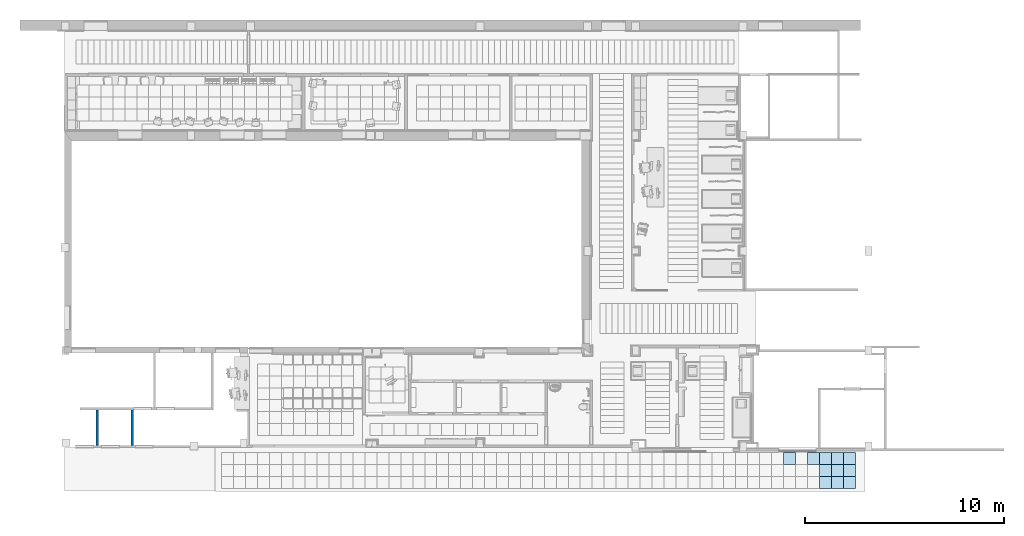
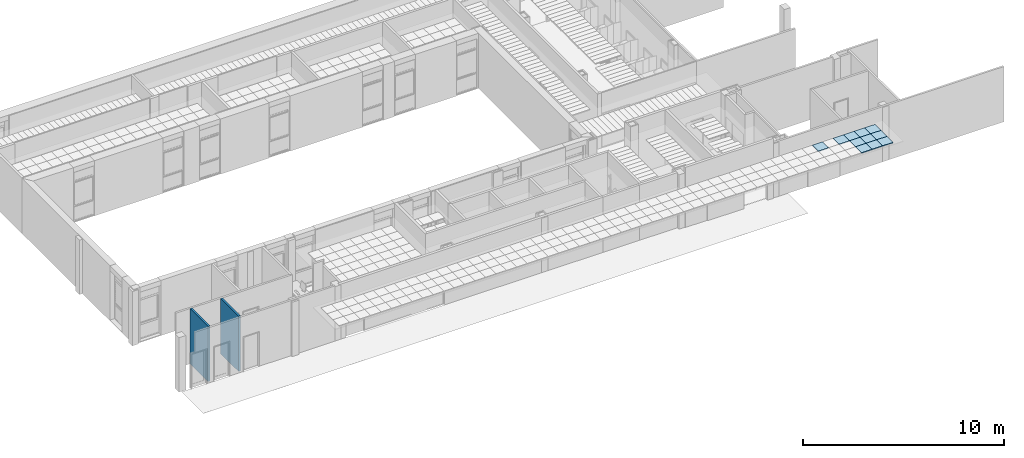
# One storey, part 22 of 68: 11 slabs, 2 walls.
"""IFC2X3 building model written with IfcOpenShell, lengths in millimetres."""

from ifc_helpers import new_model, entity, si_unit, converted_unit, derived_unit, money_unit, direction, frame, origin_with_axes, place, context, subcontext, project, spatial, polyline, outline, extrude, material, layer, layer_set, layer_usage, type_object, element, save


model = new_model("IFC2X3")

# Units and contexts
model_context = context("Model", 3, precision=0.01, world=origin_with_axes(), true_north=direction((0.0, 1.0)))
body_context = subcontext(model_context, "Body", "Model", "MODEL_VIEW")
ifc_project = project(units=[si_unit("LENGTHUNIT", "METRE", prefix="MILLI"), si_unit("AREAUNIT", "SQUARE_METRE"), si_unit("VOLUMEUNIT", "CUBIC_METRE"), converted_unit("PLANEANGLEUNIT", "DEGREE", entity("IfcPlaneAngleMeasure", 0.0174532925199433), si_unit("PLANEANGLEUNIT", "RADIAN"), dimensions=[0, 0, 0, 0, 0, 0, 0]), money_unit("USD"), converted_unit("TIMEUNIT", "Year", entity("IfcTimeMeasure", 31557600.0), si_unit("TIMEUNIT", "SECOND"), dimensions=[0, 0, 1, 0, 0, 0, 0]), si_unit("MASSUNIT", "GRAM", prefix="KILO"), si_unit("THERMODYNAMICTEMPERATUREUNIT", "DEGREE_CELSIUS"), si_unit("LUMINOUSINTENSITYUNIT", "LUMEN"), si_unit("ENERGYUNIT", "JOULE", prefix="MEGA"), derived_unit("THERMALCONDUCTANCEUNIT", [(si_unit("POWERUNIT", "WATT"), 1), (si_unit("LENGTHUNIT", "METRE"), -1), (si_unit("THERMODYNAMICTEMPERATUREUNIT", "KELVIN"), -1)]), derived_unit("SPECIFICHEATCAPACITYUNIT", [(si_unit("ENERGYUNIT", "JOULE"), 1), (si_unit("MASSUNIT", "GRAM", prefix="KILO"), -1), (si_unit("THERMODYNAMICTEMPERATUREUNIT", "KELVIN"), -1)]), derived_unit("MASSDENSITYUNIT", [(si_unit("MASSUNIT", "GRAM", prefix="KILO"), 1), (si_unit("VOLUMEUNIT", "CUBIC_METRE"), -1)])], contexts=[model_context])

# Site, building, storey
site_placement = place(None, origin_with_axes())
site = spatial("IfcSite", under=ifc_project, at=site_placement, Name="Sitio", CompositionType="ELEMENT")
building_placement = place(site_placement, origin_with_axes())
building = spatial("IfcBuilding", under=site, at=building_placement, Name="Construcción", CompositionType="ELEMENT")
storey_placement = place(building_placement, origin_with_axes())
storey = spatial("IfcBuildingStorey", under=building, at=storey_placement, Name="PLANTA 1ª", CompositionType="ELEMENT", Elevation=0.0)

# Slabs
ifc_material_1 = material(Name="ARQ_CE217_Armstrong 60x60")
ifc_layer_1 = layer(ifc_material_1, 50.0, ventilated="UNKNOWN")
ifc_layer_set_1 = layer_set([ifc_layer_1], Name="ARQ_CE217_Armstrong 60x60 50")
ifc_layer_usage_1 = layer_usage(ifc_layer_set_1, "AXIS3", "NEGATIVE", 50.0)
slab_type = type_object("IfcSlabType", Name="ARQ_CE217_Armstrong 60x60 50", PredefinedType="NOTDEFINED")
slab_1_placement = place(storey_placement, frame((11030.29671663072, -17921.97576450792, 2500.0), z_axis=(0.0, 0.0, 1.0), x_axis=(1.0, 0.0, 0.0)))
element("IfcSlab", 1, at=slab_1_placement, inside=storey, type_object=slab_type, material=ifc_layer_usage_1, Name="SLA - 026", PredefinedType="NOTDEFINED", context=body_context, shape_type="SweptSolid", body=[
    extrude(outline(polyline([(0.0, 0.0), (600.0000000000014, 0.0), (600.0000000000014, 600.0000000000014), (0.0, 600.0000000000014), (0.0, 0.0)])), frame((0.0, 0.0, -50.0), z_axis=(0.0, 0.0, 1.0), x_axis=(1.0, 0.0, 0.0)), (0.0, 0.0, 1.0), 50.0),
])
ifc_layer_usage_2 = layer_usage(ifc_layer_set_1, "AXIS3", "NEGATIVE", 50.0)
slab_2_placement = place(storey_placement, frame((11030.29671663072, -18521.97576450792, 2500.0), z_axis=(0.0, 0.0, 1.0), x_axis=(1.0, 0.0, 0.0)))
element("IfcSlab", 2, at=slab_2_placement, inside=storey, type_object=slab_type, material=ifc_layer_usage_2, Name="SLA - 026", PredefinedType="NOTDEFINED", context=body_context, shape_type="SweptSolid", body=[
    extrude(outline(polyline([(0.0, 0.0), (600.0000000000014, 0.0), (600.0000000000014, 600.0000000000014), (0.0, 600.0000000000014), (0.0, 0.0)])), frame((0.0, 0.0, -50.0), z_axis=(0.0, 0.0, 1.0), x_axis=(1.0, 0.0, 0.0)), (0.0, 0.0, 1.0), 50.0),
])
ifc_layer_usage_3 = layer_usage(ifc_layer_set_1, "AXIS3", "NEGATIVE", 50.0)
slab_3_placement = place(storey_placement, frame((11030.29671663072, -19121.97576450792, 2500.0), z_axis=(0.0, 0.0, 1.0), x_axis=(1.0, 0.0, 0.0)))
element("IfcSlab", 3, at=slab_3_placement, inside=storey, type_object=slab_type, material=ifc_layer_usage_3, Name="SLA - 026", PredefinedType="NOTDEFINED", context=body_context, shape_type="SweptSolid", body=[
    extrude(outline(polyline([(0.0, 0.0), (600.0000000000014, 0.0), (600.0000000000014, 600.0000000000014), (0.0, 600.0000000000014), (0.0, 0.0)])), frame((0.0, 0.0, -50.0), z_axis=(0.0, 0.0, 1.0), x_axis=(1.0, 0.0, 0.0)), (0.0, 0.0, 1.0), 50.0),
])
ifc_layer_usage_4 = layer_usage(ifc_layer_set_1, "AXIS3", "NEGATIVE", 50.0)
slab_4_placement = place(storey_placement, frame((10430.29671663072, -18521.97576450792, 2500.0), z_axis=(0.0, 0.0, 1.0), x_axis=(1.0, 0.0, 0.0)))
element("IfcSlab", 4, at=slab_4_placement, inside=storey, type_object=slab_type, material=ifc_layer_usage_4, Name="SLA - 026", PredefinedType="NOTDEFINED", context=body_context, shape_type="SweptSolid", body=[
    extrude(outline(polyline([(0.0, 0.0), (600.0000000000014, 0.0), (600.0000000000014, 600.0000000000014), (0.0, 600.0000000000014), (0.0, 0.0)])), frame((0.0, 0.0, -50.0), z_axis=(0.0, 0.0, 1.0), x_axis=(1.0, 0.0, 0.0)), (0.0, 0.0, 1.0), 50.0),
])
ifc_layer_usage_5 = layer_usage(ifc_layer_set_1, "AXIS3", "NEGATIVE", 50.0)
slab_5_placement = place(storey_placement, frame((10430.29671663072, -17921.97576450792, 2500.0), z_axis=(0.0, 0.0, 1.0), x_axis=(1.0, 0.0, 0.0)))
element("IfcSlab", 5, at=slab_5_placement, inside=storey, type_object=slab_type, material=ifc_layer_usage_5, Name="SLA - 026", PredefinedType="NOTDEFINED", context=body_context, shape_type="SweptSolid", body=[
    extrude(outline(polyline([(0.0, 0.0), (600.0000000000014, 0.0), (600.0000000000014, 600.0000000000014), (0.0, 600.0000000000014), (0.0, 0.0)])), frame((0.0, 0.0, -50.0), z_axis=(0.0, 0.0, 1.0), x_axis=(1.0, 0.0, 0.0)), (0.0, 0.0, 1.0), 50.0),
])
ifc_layer_usage_6 = layer_usage(ifc_layer_set_1, "AXIS3", "NEGATIVE", 50.0)
slab_6_placement = place(storey_placement, frame((10430.29671663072, -19121.97576450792, 2500.0), z_axis=(0.0, 0.0, 1.0), x_axis=(1.0, 0.0, 0.0)))
element("IfcSlab", 6, at=slab_6_placement, inside=storey, type_object=slab_type, material=ifc_layer_usage_6, Name="SLA - 026", PredefinedType="NOTDEFINED", context=body_context, shape_type="SweptSolid", body=[
    extrude(outline(polyline([(0.0, 0.0), (600.0000000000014, 0.0), (600.0000000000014, 600.0000000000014), (0.0, 600.0000000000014), (0.0, 0.0)])), frame((0.0, 0.0, -50.0), z_axis=(0.0, 0.0, 1.0), x_axis=(1.0, 0.0, 0.0)), (0.0, 0.0, 1.0), 50.0),
])
ifc_layer_usage_7 = layer_usage(ifc_layer_set_1, "AXIS3", "NEGATIVE", 50.0)
slab_7_placement = place(storey_placement, frame((9830.296716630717, -17921.97576450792, 2500.0), z_axis=(0.0, 0.0, 1.0), x_axis=(1.0, 0.0, 0.0)))
element("IfcSlab", 7, at=slab_7_placement, inside=storey, type_object=slab_type, material=ifc_layer_usage_7, Name="SLA - 026", PredefinedType="NOTDEFINED", context=body_context, shape_type="SweptSolid", body=[
    extrude(outline(polyline([(0.0, 0.0), (600.0000000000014, 0.0), (600.0000000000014, 600.0000000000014), (0.0, 600.0000000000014), (0.0, 0.0)])), frame((0.0, 0.0, -50.0), z_axis=(0.0, 0.0, 1.0), x_axis=(1.0, 0.0, 0.0)), (0.0, 0.0, 1.0), 50.0),
])
ifc_layer_usage_8 = layer_usage(ifc_layer_set_1, "AXIS3", "NEGATIVE", 50.0)
slab_8_placement = place(storey_placement, frame((9830.296716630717, -18521.97576450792, 2500.0), z_axis=(0.0, 0.0, 1.0), x_axis=(1.0, 0.0, 0.0)))
element("IfcSlab", 8, at=slab_8_placement, inside=storey, type_object=slab_type, material=ifc_layer_usage_8, Name="SLA - 026", PredefinedType="NOTDEFINED", context=body_context, shape_type="SweptSolid", body=[
    extrude(outline(polyline([(0.0, 0.0), (600.0000000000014, 0.0), (600.0000000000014, 600.0000000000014), (0.0, 600.0000000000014), (0.0, 0.0)])), frame((0.0, 0.0, -50.0), z_axis=(0.0, 0.0, 1.0), x_axis=(1.0, 0.0, 0.0)), (0.0, 0.0, 1.0), 50.0),
])
ifc_layer_usage_9 = layer_usage(ifc_layer_set_1, "AXIS3", "NEGATIVE", 50.0)
slab_9_placement = place(storey_placement, frame((9830.296716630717, -19121.97576450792, 2500.0), z_axis=(0.0, 0.0, 1.0), x_axis=(1.0, 0.0, 0.0)))
element("IfcSlab", 9, at=slab_9_placement, inside=storey, type_object=slab_type, material=ifc_layer_usage_9, Name="SLA - 026", PredefinedType="NOTDEFINED", context=body_context, shape_type="SweptSolid", body=[
    extrude(outline(polyline([(0.0, 0.0), (600.0000000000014, 0.0), (600.0000000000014, 600.0000000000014), (0.0, 600.0000000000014), (0.0, 0.0)])), frame((0.0, 0.0, -50.0), z_axis=(0.0, 0.0, 1.0), x_axis=(1.0, 0.0, 0.0)), (0.0, 0.0, 1.0), 50.0),
])
ifc_layer_usage_10 = layer_usage(ifc_layer_set_1, "AXIS3", "NEGATIVE", 50.0)
slab_10_placement = place(storey_placement, frame((9230.296716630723, -17921.97576450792, 2500.0), z_axis=(0.0, 0.0, 1.0), x_axis=(1.0, 0.0, 0.0)))
element("IfcSlab", 10, at=slab_10_placement, inside=storey, type_object=slab_type, material=ifc_layer_usage_10, Name="SLA - 026", PredefinedType="NOTDEFINED", context=body_context, shape_type="SweptSolid", body=[
    extrude(outline(polyline([(0.0, 0.0), (600.0000000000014, 0.0), (600.0000000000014, 600.0000000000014), (0.0, 600.0000000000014), (0.0, 0.0)])), frame((0.0, 0.0, -50.0), z_axis=(0.0, 0.0, 1.0), x_axis=(1.0, 0.0, 0.0)), (0.0, 0.0, 1.0), 50.0),
])
ifc_layer_usage_11 = layer_usage(ifc_layer_set_1, "AXIS3", "NEGATIVE", 50.0)
slab_11_placement = place(storey_placement, frame((8030.296716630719, -17921.97576450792, 2500.0), z_axis=(0.0, 0.0, 1.0), x_axis=(1.0, 0.0, 0.0)))
element("IfcSlab", 11, at=slab_11_placement, inside=storey, type_object=slab_type, material=ifc_layer_usage_11, Name="SLA - 026", PredefinedType="NOTDEFINED", context=body_context, shape_type="SweptSolid", body=[
    extrude(outline(polyline([(0.0, 0.0), (600.0000000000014, 0.0), (600.0000000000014, 600.0000000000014), (0.0, 600.0000000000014), (0.0, 0.0)])), frame((0.0, 0.0, -50.0), z_axis=(0.0, 0.0, 1.0), x_axis=(1.0, 0.0, 0.0)), (0.0, 0.0, 1.0), 50.0),
])

# Walls
ifc_material_2 = material(Name="ARQ_AM246_Arrebossat_De_Guix")
ifc_layer_2 = layer(ifc_material_2, 10.0, ventilated="UNKNOWN")
ifc_material_3 = material(Name="ARQ_CE217_Gero")
ifc_layer_3 = layer(ifc_material_3, 90.0, ventilated="UNKNOWN")
ifc_layer_4 = layer(ifc_material_2, 10.0, ventilated="UNKNOWN")
ifc_layer_set_2 = layer_set([ifc_layer_2, ifc_layer_3, ifc_layer_4], Name="CR Enva Totxana")
ifc_layer_usage_12 = layer_usage(ifc_layer_set_2, "AXIS2", "POSITIVE", 0.0)
wall_type = type_object("IfcWallType", Name="CR Enva Totxana 110", PredefinedType="NOTDEFINED")
wall_1_placement = place(storey_placement, frame((-24596.4090385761, -17083.97582371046, 0.0), z_axis=(0.0, 0.0, 1.0), x_axis=(0.0, 1.0, 0.0)))
element("IfcWallStandardCase", 12, at=wall_1_placement, inside=storey, type_object=wall_type, material=ifc_layer_usage_12, Name="MS-201", context=body_context, shape_type="SweptSolid", body=[
    extrude(outline(polyline([(109.9999999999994, 0.0), (1904.999999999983, 0.0), (1904.999999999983, 109.9999999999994), (109.9999999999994, 109.9999999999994), (109.9999999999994, 0.0)])), origin_with_axes(), (0.0, 0.0, 1.0), 3350.0),
])
ifc_layer_usage_13 = layer_usage(ifc_layer_set_2, "AXIS2", "POSITIVE", 0.0)
wall_2_placement = place(storey_placement, frame((-26346.10651831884, -17083.97582371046, 0.0), z_axis=(0.0, 0.0, 1.0), x_axis=(0.0, 1.0, 0.0)))
element("IfcWallStandardCase", 13, at=wall_2_placement, inside=storey, type_object=wall_type, material=ifc_layer_usage_13, Name="MS-201", context=body_context, shape_type="SweptSolid", body=[
    extrude(outline(polyline([(109.9999999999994, 0.0), (1904.999999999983, 0.0), (1904.999999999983, 109.9999999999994), (109.9999999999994, 109.9999999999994), (109.9999999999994, 0.0)])), origin_with_axes(), (0.0, 0.0, 1.0), 3350.0),
])

save(model, "model.ifc")
